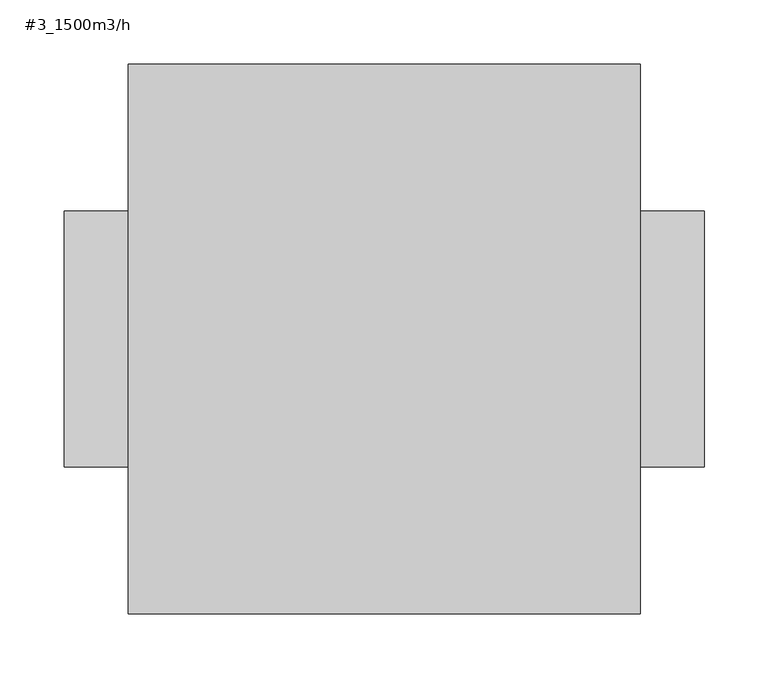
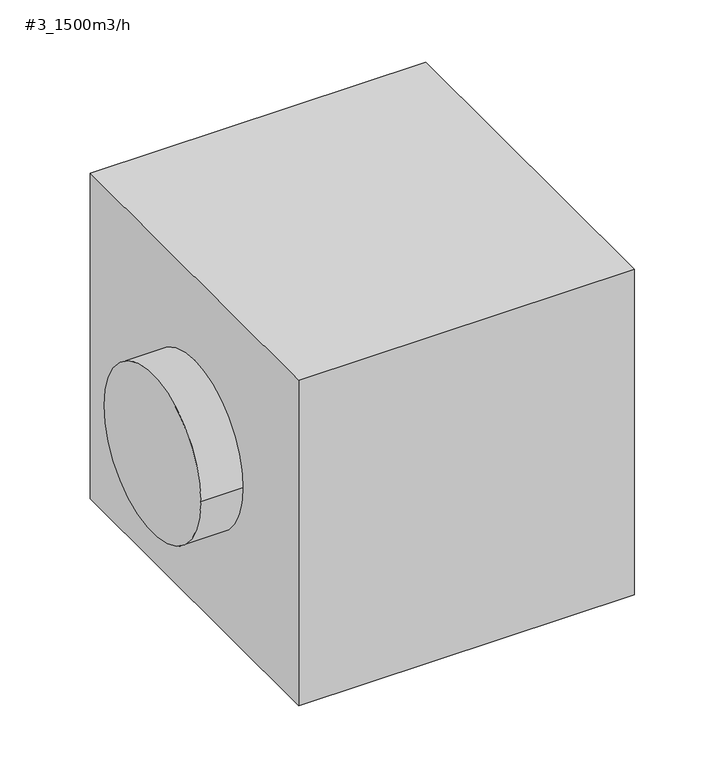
"""IFC4 building model written with IfcOpenShell, lengths in millimetres: unitary equipment geometry, 11021_FAN_斜流送風機 : #3_1500m3/h."""

from ifc_helpers import new_model, si_unit, point, frame, origin, origin_2d, place, context, project, spatial, polyline, circle_curve, trimmed, segment, composite_curve, outline, extrude, source, transform, mapped, element, save


def unitary_equipment_3_1500m3_h_19a96069(model_context):
    return source(origin(), model_context, "Body", "SweptSolid", [
        extrude(outline(composite_curve([segment(trimmed(circle_curve(origin_2d(), 100.0), [point((-100.0, 0.0))], [point((100.0, 0.0))], False, "CARTESIAN"), True, "CONTINUOUS"), segment(trimmed(circle_curve(origin_2d(), 100.0), [point((100.0, 0.0))], [point((-100.0, 0.0))], False, "CARTESIAN"), True, "CONTINUOUS")], self_intersect=False)), frame((200.0, 0.0, 0.0), z_axis=(1.0, 0.0, 0.0), x_axis=(0.0, 1.0, 0.0)), (0.0, 0.0, 1.0), 50.0),
        extrude(outline(composite_curve([segment(trimmed(circle_curve(origin_2d(), 100.0), [point((-100.0, 0.0))], [point((100.0, 0.0))], False, "CARTESIAN"), True, "CONTINUOUS"), segment(trimmed(circle_curve(origin_2d(), 100.0), [point((100.0, 0.0))], [point((-100.0, 0.0))], False, "CARTESIAN"), True, "CONTINUOUS")], self_intersect=False)), frame((-250.0, 0.0, 0.0), z_axis=(1.0, 0.0, 0.0), x_axis=(0.0, 1.0, 0.0)), (0.0, 0.0, 1.0), 50.0),
        extrude(outline(polyline([(200.0, -215.0), (-200.0, -215.0), (-200.0, 215.0), (200.0, 215.0), (200.0, -215.0)])), frame((0.0, 0.0, -205.0), z_axis=(0.0, 0.0, 1.0), x_axis=(1.0, 0.0, 0.0)), (0.0, 0.0, 1.0), 410.0),
    ])


if __name__ == "__main__":
    model = new_model("IFC4")
    model_context = context("Model", 3, world=origin())
    ifc_project = project(units=[si_unit("LENGTHUNIT", "METRE", prefix="MILLI")], contexts=[model_context])
    site = spatial("IfcSite", under=ifc_project)
    building = spatial("IfcBuilding", under=site)
    placement = place(None, origin())
    unitary_equipment_3_1500m3_h_shape = unitary_equipment_3_1500m3_h_19a96069(model_context)
    element("IfcUnitaryEquipment", 1, ObjectType="11021_FAN_斜流送風機 : #3_1500m3/h", at=placement, inside=building, context=model_context, shape_type="MappedRepresentation", body=[
        mapped(unitary_equipment_3_1500m3_h_shape, transform((0.0, 0.0, 0.0), x_axis=(1.0, 0.0, 0.0), y_axis=(0.0, 1.0, 0.0), z_axis=(0.0, 0.0, 1.0))),
    ])
    save(model, "model.ifc")
